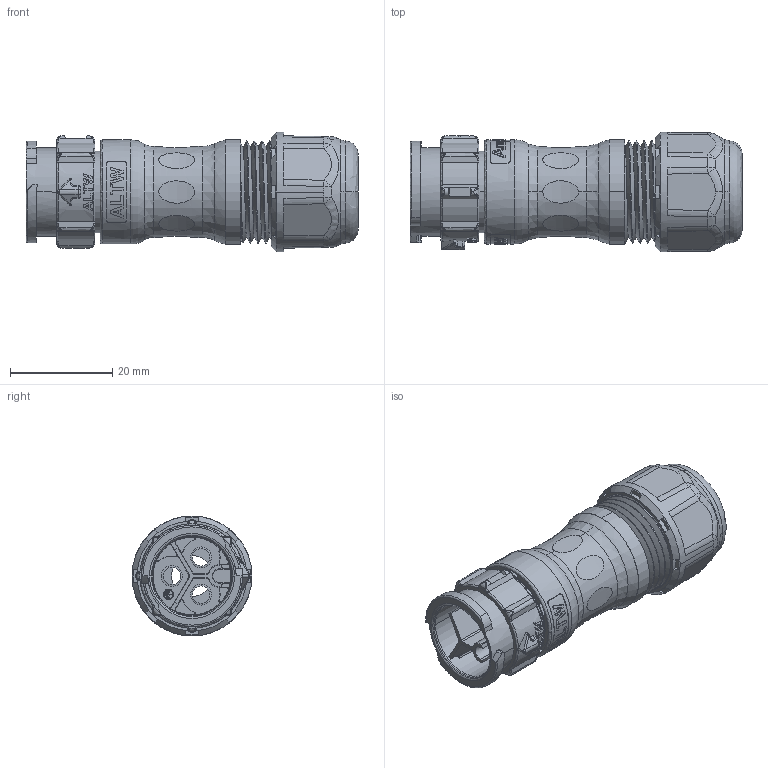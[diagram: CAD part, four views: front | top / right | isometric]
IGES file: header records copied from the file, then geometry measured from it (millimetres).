
Start section:  PTC IGES file: cc-xxbmma-ql8xnp_sw0001.igs
Global section: file name: cc-xxbmma-ql8xnp_sw0001.igs; native system: Creo Parametric by Parametric Technology Corporation; preprocessor: 2017170; author: L100003; organization: Unknown; date: 20191219.160317; units: millimetre
Bounding box: 65 x 23.48 x 23.48 mm (x, y, z)
Volume: 11484.1 mm3; surface area: 13251.6 mm2
Topology: 2 solids, 2 shells, 1289 faces, 3399 edges, 2156 vertices
Faces by surface type: bspline 564, revolution 454, extrusion 271
